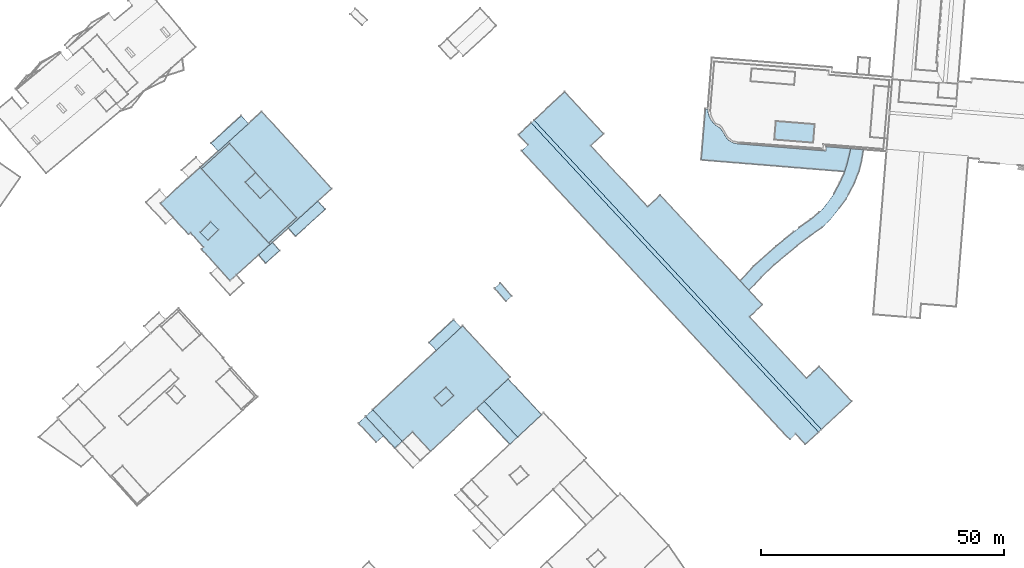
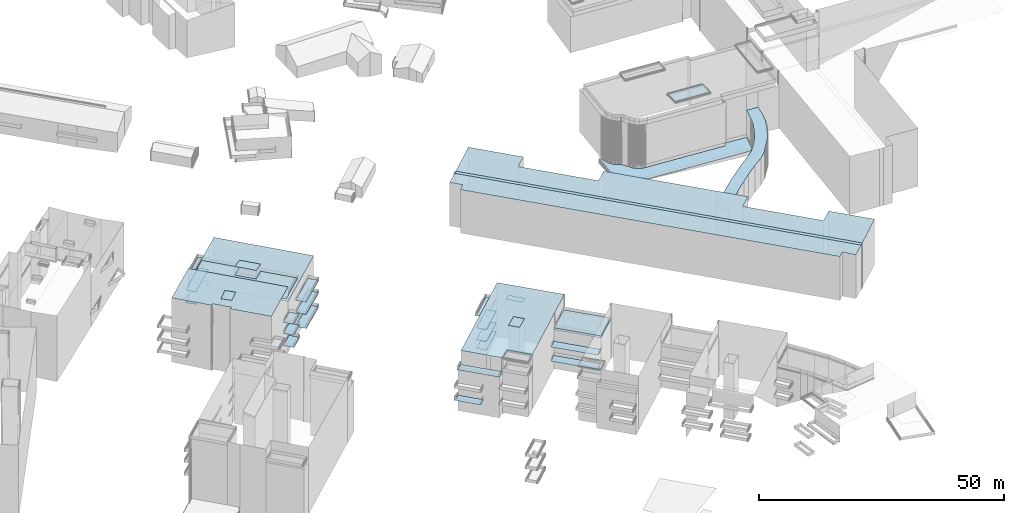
# Not in any storey, part 128 of 136: 67 roofs.
"""IFC2X3 building model written with IfcOpenShell, lengths in metres."""

from ifc_helpers import new_model, entity, si_unit, converted_unit, frame, origin, place, context, subcontext, project, spatial, face_set, surface_model, element, save


model = new_model("IFC2X3")

# Units and contexts
model_context = context("Model", 3, precision=1e-05, world=origin())
body_context = subcontext(model_context, "Body", "Model", "MODEL_VIEW")
ifc_project = project(units=[converted_unit("PLANEANGLEUNIT", "DEGREE", entity("IfcRatioMeasure", 0.0174532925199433), si_unit("PLANEANGLEUNIT", "RADIAN"), dimensions=[0, 0, 0, 0, 0, 0, 0]), si_unit("AREAUNIT", "SQUARE_METRE"), si_unit("LENGTHUNIT", "METRE")], contexts=[model_context])

# Site, building
site_placement = place(None, origin())
site = spatial("IfcSite", under=ifc_project, at=site_placement, Name="_site", CompositionType="ELEMENT")
building_1_placement = place(site_placement, origin())
building_1 = spatial("IfcBuilding", under=site, at=building_1_placement, Name="_building", CompositionType="ELEMENT")

# Roofs
for number, where, name in (
    (1, (0.0, 0.0, 0.0), "Roof"),
    (2, (0.0, 0.0, 0.0), "Roof"),
):
    element("IfcRoof", number, at=place(building_1_placement, frame(where)), inside=building_1, Name=name, ShapeType="NOTDEFINED", context=body_context, shape_type="SurfaceModel", body=[
        surface_model("IfcFaceBasedSurfaceModel", [(104.82, -3.59, 42.0), (103.37, -4.939, 42.0), (107.05, -8.89, 42.0), (108.5, -7.54, 42.0)], [face_set([[[0, 1, 2, 3]]])]),
    ])
roof_1_placement = place(building_1_placement, origin())
element("IfcRoof", 3, at=roof_1_placement, inside=building_1, Name="Roof", ShapeType="NOTDEFINED", context=body_context, shape_type="SurfaceModel", body=[
    surface_model("IfcFaceBasedSurfaceModel", [(129.21, -0.479, 44.99), (127.64, -1.95, 44.99), (134.49, -9.28, 44.99), (136.06, -7.81, 44.99)], [face_set([[[0, 1, 2, 3]]])]),
])
roof_2_placement = place(building_1_placement, origin())
element("IfcRoof", 4, at=roof_2_placement, inside=building_1, Name="Roof", ShapeType="NOTDEFINED", context=body_context, shape_type="SurfaceModel", body=[
    surface_model("IfcFaceBasedSurfaceModel", [(119.35, 9.97, 39.81), (124.42, 14.69, 39.81), (122.92, 16.3, 39.81), (117.86, 11.57, 39.81)], [face_set([[[0, 1, 2, 3]]])]),
])
roof_3_placement = place(building_1_placement, origin())
element("IfcRoof", 5, at=roof_3_placement, inside=building_1, Name="Roof", ShapeType="NOTDEFINED", context=body_context, shape_type="SurfaceModel", body=[
    surface_model("IfcFaceBasedSurfaceModel", [(119.35, 9.97, 44.97), (124.42, 14.69, 44.97), (122.92, 16.3, 44.97), (117.86, 11.57, 44.97)], [face_set([[[0, 1, 2, 3]]])]),
])
roof_4_placement = place(building_1_placement, origin())
element("IfcRoof", 6, at=roof_4_placement, inside=building_1, Name="Roof", ShapeType="NOTDEFINED", context=body_context, shape_type="SurfaceModel", body=[
    surface_model("IfcFaceBasedSurfaceModel", [(119.35, 9.97, 48.0), (124.42, 14.69, 48.0), (122.92, 16.3, 48.0), (117.86, 11.57, 48.0)], [face_set([[[0, 1, 2, 3]]])]),
])
roof_5_placement = place(building_1_placement, origin())
element("IfcRoof", 7, at=roof_5_placement, inside=building_1, Name="Roof", ShapeType="NOTDEFINED", context=body_context, shape_type="SurfaceModel", body=[
    surface_model("IfcFaceBasedSurfaceModel", [(129.21, -0.479, 41.46), (127.64, -1.95, 41.46), (134.49, -9.28, 41.46), (136.06, -7.81, 41.46)], [face_set([[[0, 1, 2, 3]]])]),
])
roof_6_placement = place(building_1_placement, origin())
element("IfcRoof", 8, at=roof_6_placement, inside=building_1, Name="Roof", ShapeType="NOTDEFINED", context=body_context, shape_type="SurfaceModel", body=[
    surface_model("IfcFaceBasedSurfaceModel", [(119.35, 9.97, 42.0), (124.42, 14.69, 42.0), (122.92, 16.3, 42.0), (117.86, 11.57, 42.0)], [face_set([[[0, 1, 2, 3]]])]),
])
roof_7_placement = place(building_1_placement, origin())
element("IfcRoof", 9, at=roof_7_placement, inside=building_1, Name="Roof", ShapeType="NOTDEFINED", context=body_context, shape_type="SurfaceModel", body=[
    surface_model("IfcFaceBasedSurfaceModel", [(129.21, -0.479, 48.33), (136.06, -7.81, 48.33), (140.97, -3.229, 48.33), (134.12, 4.101, 48.33)], [face_set([[[0, 1, 2, 3]]])]),
])
roof_8_placement = place(building_1_placement, origin())
element("IfcRoof", 10, at=roof_8_placement, inside=building_1, Name="Roof", ShapeType="NOTDEFINED", context=body_context, shape_type="SurfaceModel", body=[
    surface_model("IfcFaceBasedSurfaceModel", [(106.3, -2.21, 48.29), (104.82, -3.59, 48.29), (110.83, -10.05, 48.29), (112.32, -8.66, 48.29)], [face_set([[[0, 1, 2, 3]]])]),
])
roof_9_placement = place(building_1_placement, origin())
element("IfcRoof", 11, at=roof_9_placement, inside=building_1, Name="Roof", ShapeType="NOTDEFINED", context=body_context, shape_type="SurfaceModel", body=[
    surface_model("IfcFaceBasedSurfaceModel", [(140.97, -3.229, 47.82), (134.12, 4.101, 47.82), (129.5, -0.21, 47.82), (129.21, -0.479, 47.82), (136.06, -7.81, 47.82)], [face_set([[[0, 1, 2, 3, 4]]])]),
])

# Building
building_2_placement = place(site_placement, origin())
building_2 = spatial("IfcBuilding", under=site, at=building_2_placement, Name="_building", CompositionType="ELEMENT")

# Roofs
for number, where, name in (
    (12, (0.0, 0.0, 0.0), "Roof"),
    (13, (0.0, 0.0, 0.0), "Roof"),
):
    element("IfcRoof", number, at=place(building_2_placement, frame(where)), inside=building_2, Name=name, ShapeType="NOTDEFINED", context=body_context, shape_type="SurfaceModel", body=[
        surface_model("IfcFaceBasedSurfaceModel", [(197.91, -6.82, 48.72), (138.87, 56.73, 48.72), (136.27, 54.32, 48.81), (138.21, 52.24, 48.81), (136.9, 51.021, 48.81), (192.04, -8.32, 48.81), (193.24, -7.189, 48.81), (195.22, -9.32, 48.76)], [face_set([[[0, 1, 2, 3, 4, 5, 6, 7]]])]),
    ])
roof_10_placement = place(building_2_placement, origin())
element("IfcRoof", 14, at=roof_10_placement, inside=building_2, Name="Roof", ShapeType="NOTDEFINED", context=body_context, shape_type="SurfaceModel", body=[
    surface_model("IfcFaceBasedSurfaceModel", [(198.5, -6.27, 48.72), (204.72, -0.49, 48.95), (198.05, 6.68, 48.95), (195.46, 4.28, 48.95), (183.73, 16.9, 48.95), (186.37, 19.351, 48.95), (183.62, 22.32, 48.95), (181.81, 24.26, 48.95), (165.41, 41.91, 48.95), (162.81, 39.49, 48.95), (151.12, 52.07, 48.95), (153.74, 54.51, 48.95), (145.74, 63.12, 48.95), (139.46, 57.28, 48.72)], [face_set([[[0, 1, 2, 3, 4, 5, 6, 7, 8, 9, 10, 11, 12, 13]]])]),
])
for number, where, name in (
    (15, (0.0, 0.0, 0.0), "Roof"),
    (16, (0.0, 0.0, 0.0), "Roof"),
):
    element("IfcRoof", number, at=place(building_2_placement, frame(where)), inside=building_2, Name=name, ShapeType="NOTDEFINED", context=body_context, shape_type="SurfaceModel", body=[
        surface_model("IfcFaceBasedSurfaceModel", [(197.91, -6.82, 48.72), (198.5, -6.27, 48.72), (139.46, 57.28, 48.72), (138.87, 56.73, 48.72)], [face_set([[[0, 1, 2, 3]]])]),
    ])
roof_11_placement = place(building_2_placement, origin())
element("IfcRoof", 17, at=roof_11_placement, inside=building_2, Name="Roof", ShapeType="NOTDEFINED", context=body_context, shape_type="SurfaceModel", body=[
    surface_model("IfcFaceBasedSurfaceModel", [(198.5, -6.27, 48.72), (204.72, -0.49, 48.95), (198.05, 6.68, 48.95), (195.46, 4.28, 48.95), (183.73, 16.9, 48.95), (186.37, 19.351, 48.95), (183.62, 22.32, 48.95), (181.81, 24.26, 48.95), (165.41, 41.91, 48.95), (162.81, 39.49, 48.95), (151.12, 52.07, 48.95), (153.74, 54.51, 48.95), (145.74, 63.12, 48.95), (139.46, 57.28, 48.72)], [face_set([[[0, 1, 2, 3, 4, 5, 6, 7, 8, 9, 10, 11, 12, 13]]])]),
])

# Building
building_3_placement = place(site_placement, origin())
building_3 = spatial("IfcBuilding", under=site, at=building_3_placement, Name="_building", CompositionType="ELEMENT")

# Roofs
roof_12_placement = place(building_3_placement, origin())
element("IfcRoof", 18, at=roof_12_placement, inside=building_3, Name="Roof", ShapeType="NOTDEFINED", context=body_context, shape_type="SurfaceModel", body=[
    surface_model("IfcFaceBasedSurfaceModel", [(129.21, -0.479, 44.99), (127.64, -1.95, 44.99), (134.49, -9.28, 44.99), (136.06, -7.81, 44.99)], [face_set([[[0, 1, 2, 3]]])]),
])
roof_13_placement = place(building_3_placement, origin())
element("IfcRoof", 19, at=roof_13_placement, inside=building_3, Name="Roof", ShapeType="NOTDEFINED", context=body_context, shape_type="SurfaceModel", body=[
    surface_model("IfcFaceBasedSurfaceModel", [(129.21, -0.479, 41.46), (127.64, -1.95, 41.46), (134.49, -9.28, 41.46), (136.06, -7.81, 41.46)], [face_set([[[0, 1, 2, 3]]])]),
])

# Building
building_4_placement = place(site_placement, origin())
building_4 = spatial("IfcBuilding", under=site, at=building_4_placement, Name="_building", CompositionType="ELEMENT")

# Roofs
for number, where, name in (
    (20, (0.0, 0.0, 0.0), "Roof"),
    (21, (0.0, 0.0, 0.0), "Roof"),
):
    element("IfcRoof", number, at=place(building_4_placement, frame(where)), inside=building_4, Name=name, ShapeType="NOTDEFINED", context=body_context, shape_type="SurfaceModel", body=[
        surface_model("IfcFaceBasedSurfaceModel", [(132.53, 23.84, 40.58), (131.34, 22.8, 40.58), (133.68, 20.11, 40.58), (134.87, 21.15, 40.58)], [face_set([[[0, 1, 2, 3]]])]),
    ])

# Building
building_5_placement = place(site_placement, origin())
building_5 = spatial("IfcBuilding", under=site, at=building_5_placement, Name="_building", CompositionType="ELEMENT")

# Roofs
for number, where, name in (
    (22, (0.0, 0.0, 0.0), "Roof"),
    (23, (0.0, 0.0, 0.0), "Roof"),
):
    element("IfcRoof", number, at=place(building_5_placement, frame(where)), inside=building_5, Name=name, ShapeType="NOTDEFINED", context=body_context, shape_type="SurfaceModel", body=[
        surface_model("IfcFaceBasedSurfaceModel", [(106.3, -2.21, 48.25), (104.82, -3.59, 48.25), (108.5, -7.54, 48.25), (110.83, -10.05, 48.25), (112.32, -8.66, 48.25), (109.98, -6.16, 48.25)], [face_set([[[0, 1, 2, 3, 4, 5]]])]),
    ])
for number, where, name in (
    (24, (0.0, 0.0, 0.0), "Roof"),
    (25, (0.0, 0.0, 0.0), "Roof"),
):
    element("IfcRoof", number, at=place(building_5_placement, frame(where)), inside=building_5, Name=name, ShapeType="NOTDEFINED", context=body_context, shape_type="SurfaceModel", body=[
        surface_model("IfcFaceBasedSurfaceModel", [(112.38, -8.729, 51.74), (114.48, -6.77, 51.74), (118.19, -10.75, 51.74), (129.21, -0.479, 51.74), (129.5, -0.21, 51.74), (134.12, 4.101, 51.74), (134.57, 4.521, 51.74), (124.77, 15.021, 51.74), (106.3, -2.21, 51.74), (109.98, -6.16, 51.74), (110.57, -6.79, 51.74), (112.32, -8.66, 51.74)], [face_set([[[0, 1, 2, 3, 4, 5, 6, 7, 8, 9, 10, 11]]])]),
    ])
for number, where, name in (
    (26, (0.0, 0.0, 0.0), "Roof"),
    (27, (0.0, 0.0, 0.0), "Roof"),
):
    element("IfcRoof", number, at=place(building_5_placement, frame(where)), inside=building_5, Name=name, ShapeType="NOTDEFINED", context=body_context, shape_type="SurfaceModel", body=[
        surface_model("IfcFaceBasedSurfaceModel", [(121.37, 2.44, 52.1), (118.93, 0.26, 52.1), (120.5, -1.5, 52.1), (122.94, 0.68, 52.1)], [face_set([[[0, 1, 2, 3]]])]),
    ])
roof_14_placement = place(building_5_placement, origin())
element("IfcRoof", 28, at=roof_14_placement, inside=building_5, Name="Roof", ShapeType="NOTDEFINED", context=body_context, shape_type="SurfaceModel", body=[
    surface_model("IfcFaceBasedSurfaceModel", [(119.35, 9.97, 39.81), (124.42, 14.69, 39.81), (122.92, 16.3, 39.81), (117.86, 11.57, 39.81)], [face_set([[[0, 1, 2, 3]]])]),
])
roof_15_placement = place(building_5_placement, origin())
element("IfcRoof", 29, at=roof_15_placement, inside=building_5, Name="Roof", ShapeType="NOTDEFINED", context=body_context, shape_type="SurfaceModel", body=[
    surface_model("IfcFaceBasedSurfaceModel", [(119.35, 9.97, 44.97), (124.42, 14.69, 44.97), (122.92, 16.3, 44.97), (117.86, 11.57, 44.97)], [face_set([[[0, 1, 2, 3]]])]),
])
roof_16_placement = place(building_5_placement, origin())
element("IfcRoof", 30, at=roof_16_placement, inside=building_5, Name="Roof", ShapeType="NOTDEFINED", context=body_context, shape_type="SurfaceModel", body=[
    surface_model("IfcFaceBasedSurfaceModel", [(119.35, 9.97, 48.0), (124.42, 14.69, 48.0), (122.92, 16.3, 48.0), (117.86, 11.57, 48.0)], [face_set([[[0, 1, 2, 3]]])]),
])
roof_17_placement = place(building_5_placement, origin())
element("IfcRoof", 31, at=roof_17_placement, inside=building_5, Name="Roof", ShapeType="NOTDEFINED", context=body_context, shape_type="SurfaceModel", body=[
    surface_model("IfcFaceBasedSurfaceModel", [(119.35, 9.97, 42.0), (124.42, 14.69, 42.0), (122.92, 16.3, 42.0), (117.86, 11.57, 42.0)], [face_set([[[0, 1, 2, 3]]])]),
])
roof_18_placement = place(building_5_placement, origin())
element("IfcRoof", 32, at=roof_18_placement, inside=building_5, Name="Roof", ShapeType="NOTDEFINED", context=body_context, shape_type="SurfaceModel", body=[
    surface_model("IfcFaceBasedSurfaceModel", [(129.21, -0.479, 48.33), (136.06, -7.81, 48.33), (140.97, -3.229, 48.33), (134.12, 4.101, 48.33)], [face_set([[[0, 1, 2, 3]]])]),
])
roof_19_placement = place(building_5_placement, origin())
element("IfcRoof", 33, at=roof_19_placement, inside=building_5, Name="Roof", ShapeType="NOTDEFINED", context=body_context, shape_type="SurfaceModel", body=[
    surface_model("IfcFaceBasedSurfaceModel", [(106.3, -2.21, 48.29), (104.82, -3.59, 48.29), (110.83, -10.05, 48.29), (112.32, -8.66, 48.29)], [face_set([[[0, 1, 2, 3]]])]),
])
roof_20_placement = place(building_5_placement, origin())
element("IfcRoof", 34, at=roof_20_placement, inside=building_5, Name="Roof", ShapeType="NOTDEFINED", context=body_context, shape_type="SurfaceModel", body=[
    surface_model("IfcFaceBasedSurfaceModel", [(140.97, -3.229, 47.82), (134.12, 4.101, 47.82), (129.5, -0.21, 47.82), (129.21, -0.479, 47.82), (136.06, -7.81, 47.82)], [face_set([[[0, 1, 2, 3, 4]]])]),
])

# Building
building_6_placement = place(site_placement, origin())
building_6 = spatial("IfcBuilding", under=site, at=building_6_placement, Name="_building", CompositionType="ELEMENT")

# Roofs
for number, where, name in (
    (35, (0.0, 0.0, 0.0), "Roof"),
    (36, (0.0, 0.0, 0.0), "Roof"),
):
    element("IfcRoof", number, at=place(building_6_placement, frame(where)), inside=building_6, Name=name, ShapeType="NOTDEFINED", context=body_context, shape_type="SurfaceModel", body=[
        surface_model("IfcFaceBasedSurfaceModel", [(85.66, 32.18, 41.92), (82.82, 29.61, 41.92), (84.32, 27.95, 41.92), (87.16, 30.521, 41.92)], [face_set([[[0, 1, 2, 3]]])]),
    ])
for number, where, name in (
    (37, (0.0, 0.0, 0.0), "Roof"),
    (38, (0.0, 0.0, 0.0), "Roof"),
):
    element("IfcRoof", number, at=place(building_6_placement, frame(where)), inside=building_6, Name=name, ShapeType="NOTDEFINED", context=body_context, shape_type="SurfaceModel", body=[
        surface_model("IfcFaceBasedSurfaceModel", [(70.81, 34.23, 54.96), (72.45, 32.61, 54.96), (74.59, 34.771, 54.96), (72.95, 36.39, 54.96)], [face_set([[[0, 1, 2, 3]]])]),
    ])
for number, where, name in (
    (39, (0.0, 0.0, 0.0), "Roof"),
    (40, (0.0, 0.0, 0.0), "Roof"),
):
    element("IfcRoof", number, at=place(building_6_placement, frame(where)), inside=building_6, Name=name, ShapeType="NOTDEFINED", context=body_context, shape_type="SurfaceModel", body=[
        surface_model("IfcFaceBasedSurfaceModel", [(74.53, 50.94, 42.09), (80.76, 56.58, 42.09), (79.29, 58.21, 42.09), (73.06, 52.57, 42.09)], [face_set([[[0, 1, 2, 3]]])]),
    ])
for number, where, name in (
    (41, (0.0, 0.0, 0.0), "Roof"),
    (42, (0.0, 0.0, 0.0), "Roof"),
):
    element("IfcRoof", number, at=place(building_6_placement, frame(where)), inside=building_6, Name=name, ShapeType="NOTDEFINED", context=body_context, shape_type="SurfaceModel", body=[
        surface_model("IfcFaceBasedSurfaceModel", [(88.93, 35.15, 44.63), (90.44, 33.48, 44.63), (96.52, 38.98, 44.63), (95.01, 40.65, 44.63)], [face_set([[[0, 1, 2, 3]]])]),
    ])
for number, where, name in (
    (43, (0.0, 0.0, 0.0), "Roof"),
    (44, (0.0, 0.0, 0.0), "Roof"),
):
    element("IfcRoof", number, at=place(building_6_placement, frame(where)), inside=building_6, Name=name, ShapeType="NOTDEFINED", context=body_context, shape_type="SurfaceModel", body=[
        surface_model("IfcFaceBasedSurfaceModel", [(88.93, 35.15, 41.14), (90.44, 33.48, 41.14), (96.52, 38.98, 41.14), (95.01, 40.65, 41.14)], [face_set([[[0, 1, 2, 3]]])]),
    ])
for number, where, name in (
    (45, (0.0, 0.0, 0.0), "Roof"),
    (46, (0.0, 0.0, 0.0), "Roof"),
):
    element("IfcRoof", number, at=place(building_6_placement, frame(where)), inside=building_6, Name=name, ShapeType="NOTDEFINED", context=body_context, shape_type="SurfaceModel", body=[
        surface_model("IfcFaceBasedSurfaceModel", [(85.66, 32.18, 47.7), (82.82, 29.61, 47.7), (84.32, 27.95, 47.7), (87.16, 30.521, 47.7)], [face_set([[[0, 1, 2, 3]]])]),
    ])
for number, where, name in (
    (47, (0.0, 0.0, 0.0), "Roof"),
    (48, (0.0, 0.0, 0.0), "Roof"),
):
    element("IfcRoof", number, at=place(building_6_placement, frame(where)), inside=building_6, Name=name, ShapeType="NOTDEFINED", context=body_context, shape_type="SurfaceModel", body=[
        surface_model("IfcFaceBasedSurfaceModel", [(88.93, 35.15, 47.7), (90.44, 33.48, 47.7), (96.52, 38.98, 47.7), (95.01, 40.65, 47.7)], [face_set([[[0, 1, 2, 3]]])]),
    ])
for number, where, name in (
    (49, (0.0, 0.0, 0.0), "Roof"),
    (50, (0.0, 0.0, 0.0), "Roof"),
):
    element("IfcRoof", number, at=place(building_6_placement, frame(where)), inside=building_6, Name=name, ShapeType="NOTDEFINED", context=body_context, shape_type="SurfaceModel", body=[
        surface_model("IfcFaceBasedSurfaceModel", [(74.53, 50.94, 45.18), (80.76, 56.58, 45.18), (79.29, 58.21, 45.18), (73.06, 52.57, 45.18)], [face_set([[[0, 1, 2, 3]]])]),
    ])
for number, where, name in (
    (51, (0.0, 0.0, 0.0), "Roof"),
    (52, (0.0, 0.0, 0.0), "Roof"),
):
    element("IfcRoof", number, at=place(building_6_placement, frame(where)), inside=building_6, Name=name, ShapeType="NOTDEFINED", context=body_context, shape_type="SurfaceModel", body=[
        surface_model("IfcFaceBasedSurfaceModel", [(74.53, 50.94, 47.79), (80.76, 56.58, 47.79), (79.29, 58.21, 47.79), (73.06, 52.57, 47.79)], [face_set([[[0, 1, 2, 3]]])]),
    ])
for number, where, name in (
    (53, (0.0, 0.0, 0.0), "Roof"),
    (54, (0.0, 0.0, 0.0), "Roof"),
):
    element("IfcRoof", number, at=place(building_6_placement, frame(where)), inside=building_6, Name=name, ShapeType="NOTDEFINED", context=body_context, shape_type="SurfaceModel", body=[
        surface_model("IfcFaceBasedSurfaceModel", [(85.19, 31.76, 54.39), (70.85, 47.61, 54.39), (62.68, 40.22, 54.39), (68.46, 33.83, 54.39), (68.86, 34.2, 54.39), (71.55, 31.22, 54.39), (71.11, 30.82, 54.39), (76.98, 24.33, 54.39)], [face_set([[[0, 1, 2, 3, 4, 5, 6, 7]]])]),
    ])
for number, where, name in (
    (55, (0.0, 0.0, 0.0), "Roof"),
    (56, (0.0, 0.0, 0.0), "Roof"),
):
    element("IfcRoof", number, at=place(building_6_placement, frame(where)), inside=building_6, Name=name, ShapeType="NOTDEFINED", context=body_context, shape_type="SurfaceModel", body=[
        surface_model("IfcFaceBasedSurfaceModel", [(70.85, 47.61, 50.74), (85.19, 31.76, 50.74), (97.86, 43.23, 50.74), (83.51, 59.08, 50.74)], [face_set([[[0, 1, 2, 3]]])]),
    ])
for number, where, name in (
    (57, (0.0, 0.0, 0.0), "Roof"),
    (58, (0.0, 0.0, 0.0), "Roof"),
):
    element("IfcRoof", number, at=place(building_6_placement, frame(where)), inside=building_6, Name=name, ShapeType="NOTDEFINED", context=body_context, shape_type="SurfaceModel", body=[
        surface_model("IfcFaceBasedSurfaceModel", [(71.11, 47.32, 51.32), (84.91, 32.08, 51.32), (90.65, 37.28, 51.32), (85.32, 43.17, 51.32), (83.17, 41.22, 51.32), (80.11, 44.59, 51.32), (82.27, 46.54, 51.32), (76.85, 52.521, 51.32)], [face_set([[[0, 1, 2, 3, 4, 5, 6, 7]]])]),
    ])
roof_21_placement = place(building_6_placement, origin())
element("IfcRoof", 59, at=roof_21_placement, inside=building_6, Name="Roof", ShapeType="NOTDEFINED", context=body_context, shape_type="SurfaceModel", body=[
    surface_model("IfcFaceBasedSurfaceModel", [(83.17, 41.22, 53.44), (85.3, 43.15, 53.1), (82.25, 46.521, 53.12), (80.11, 44.59, 53.46)], [face_set([[[0, 1, 2, 3]]])]),
])
for number, where, name in (
    (60, (0.0, 0.0, 0.0), "Roof"),
    (61, (0.0, 0.0, 0.0), "Roof"),
):
    element("IfcRoof", number, at=place(building_6_placement, frame(where)), inside=building_6, Name=name, ShapeType="NOTDEFINED", context=body_context, shape_type="SurfaceModel", body=[
        surface_model("IfcFaceBasedSurfaceModel", [(85.66, 32.18, 44.95), (82.82, 29.61, 44.95), (84.32, 27.95, 44.95), (87.16, 30.521, 44.95)], [face_set([[[0, 1, 2, 3]]])]),
    ])
roof_22_placement = place(building_6_placement, origin())
element("IfcRoof", 62, at=roof_22_placement, inside=building_6, Name="Roof", ShapeType="NOTDEFINED", context=body_context, shape_type="SurfaceModel", body=[
    surface_model("IfcFaceBasedSurfaceModel", [(83.17, 41.22, 53.44), (85.3, 43.15, 53.1), (82.25, 46.521, 53.12), (80.11, 44.59, 53.46)], [face_set([[[0, 1, 2, 3]]])]),
])

# Building
building_7_placement = place(site_placement, origin())
building_7 = spatial("IfcBuilding", under=site, at=building_7_placement, Name="_building", CompositionType="ELEMENT")

# Roofs
roof_23_placement = place(building_7_placement, origin())
element("IfcRoof", 63, at=roof_23_placement, inside=building_7, Name="Roof", ShapeType="NOTDEFINED", context=body_context, shape_type="SurfaceModel", body=[
    surface_model("IfcFaceBasedSurfaceModel", [(196.83, 52.64, 51.1), (197.13, 56.45, 50.7), (189.14, 57.09, 50.69), (188.84, 53.28, 51.1)], [face_set([[[0, 1, 2, 3]]])]),
])
roof_24_placement = place(building_7_placement, origin())
element("IfcRoof", 64, at=roof_24_placement, inside=building_7, Name="Roof", ShapeType="NOTDEFINED", context=body_context, shape_type="SurfaceModel", body=[
    surface_model("IfcFaceBasedSurfaceModel", [(204.54, 51.45, 37.93), (199.48, 51.86, 37.93), (199.41, 50.99, 37.93), (181.37, 52.45, 37.93), (181.2, 52.46, 37.93), (180.88, 52.5, 37.93), (180.57, 52.58, 37.93), (180.27, 52.68, 37.93), (179.98, 52.82, 37.93), (179.7, 52.98, 37.93), (179.45, 53.17, 37.93), (179.21, 53.39, 37.93), (179.0, 53.62, 37.93), (178.81, 53.88, 37.93), (178.64, 54.16, 37.93), (178.51, 54.45, 37.93), (177.7, 55.69, 37.93), (177.64, 55.72, 37.93), (177.31, 55.89, 37.93), (177.0, 56.09, 37.93), (176.7, 56.32, 37.93), (176.42, 56.58, 37.93), (176.17, 56.851, 37.93), (175.94, 57.15, 37.93), (175.74, 57.46, 37.93), (175.57, 57.8, 37.93), (175.42, 58.14, 37.93), (175.31, 58.5, 37.93), (175.22, 58.86, 37.93), (175.17, 59.23, 37.93), (175.15, 59.601, 37.93), (174.67, 59.64, 37.93), (173.81, 49.13, 37.93), (203.29, 46.74, 37.93), (203.75, 48.13, 37.93)], [face_set([[[0, 1, 2, 3, 4, 5, 6, 7, 8, 9, 10, 11, 12, 13, 14, 15, 16, 17, 18, 19, 20, 21, 22, 23, 24, 25, 26, 27, 28, 29, 30, 31, 32, 33, 34]]])]),
])
for number, where, name in (
    (65, (0.0, 0.0, 0.0), "Roof"),
    (66, (0.0, 0.0, 0.0), "Roof"),
):
    element("IfcRoof", number, at=place(building_7_placement, frame(where)), inside=building_7, Name=name, ShapeType="NOTDEFINED", context=body_context, shape_type="SurfaceModel", body=[
        surface_model("IfcFaceBasedSurfaceModel", [(181.81, 24.26, 44.65), (183.62, 22.32, 44.65), (186.17, 25.04, 44.65), (188.79, 27.58, 44.65), (191.38, 29.71, 44.65), (193.48, 31.48, 44.65), (196.18, 33.55, 44.65), (198.65, 35.26, 44.65), (200.21, 36.73, 44.65), (201.32, 38.14, 44.65), (202.14, 39.18, 44.65), (203.61, 41.13, 44.65), (204.05, 41.99, 44.65), (205.27, 44.36, 44.65), (206.23, 46.84, 44.65), (206.77, 48.96, 44.65), (207.13, 51.24, 44.65), (204.54, 51.45, 44.65), (203.75, 48.13, 44.65), (203.14, 46.29, 44.65), (202.31, 44.47, 44.65), (201.1, 42.18, 44.65), (199.99, 40.66, 44.65), (198.88, 39.21, 44.65), (198.06, 38.351, 44.65), (196.29, 36.9, 44.65), (193.89, 35.19, 44.65), (192.82, 34.33, 44.65), (189.19, 31.4, 44.65), (184.58, 27.3, 44.65)], [face_set([[[0, 1, 2, 3, 4, 5, 6, 7, 8, 9, 10, 11, 12, 13, 14, 15, 16, 17, 18, 19, 20, 21, 22, 23, 24, 25, 26, 27, 28, 29]]])]),
    ])
roof_25_placement = place(building_7_placement, origin())
element("IfcRoof", 67, at=roof_25_placement, inside=building_7, Name="Roof", ShapeType="NOTDEFINED", context=body_context, shape_type="SurfaceModel", body=[
    surface_model("IfcFaceBasedSurfaceModel", [(204.54, 51.45, 37.93), (199.48, 51.86, 37.93), (199.41, 50.99, 37.93), (181.37, 52.45, 37.93), (181.2, 52.46, 37.93), (180.88, 52.5, 37.93), (180.57, 52.58, 37.93), (180.27, 52.68, 37.93), (179.98, 52.82, 37.93), (179.7, 52.98, 37.93), (179.45, 53.17, 37.93), (179.21, 53.39, 37.93), (179.0, 53.62, 37.93), (178.81, 53.88, 37.93), (178.64, 54.16, 37.93), (178.51, 54.45, 37.93), (177.7, 55.69, 37.93), (177.64, 55.72, 37.93), (177.31, 55.89, 37.93), (177.0, 56.09, 37.93), (176.7, 56.32, 37.93), (176.42, 56.58, 37.93), (176.17, 56.851, 37.93), (175.94, 57.15, 37.93), (175.74, 57.46, 37.93), (175.57, 57.8, 37.93), (175.42, 58.14, 37.93), (175.31, 58.5, 37.93), (175.22, 58.86, 37.93), (175.17, 59.23, 37.93), (175.15, 59.601, 37.93), (174.67, 59.64, 37.93), (173.81, 49.13, 37.93), (203.29, 46.74, 37.93), (203.75, 48.13, 37.93)], [face_set([[[0, 1, 2, 3, 4, 5, 6, 7, 8, 9, 10, 11, 12, 13, 14, 15, 16, 17, 18, 19, 20, 21, 22, 23, 24, 25, 26, 27, 28, 29, 30, 31, 32, 33, 34]]])]),
])

save(model, "model.ifc")
